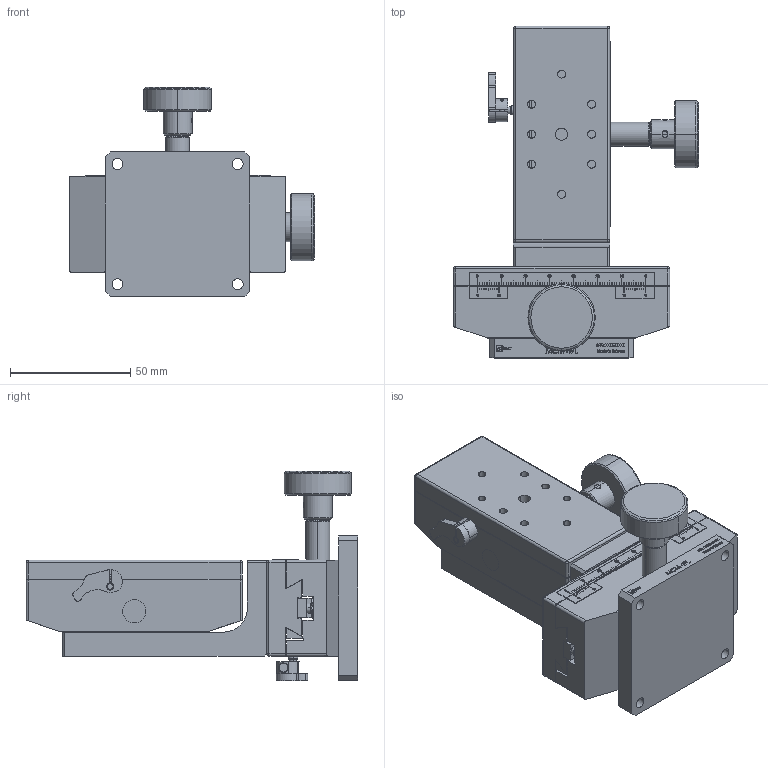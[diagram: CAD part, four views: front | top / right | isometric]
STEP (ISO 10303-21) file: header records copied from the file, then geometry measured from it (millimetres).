
FILE_DESCRIPTION (( 'STEP AP203' ), '1' );
FILE_NAME ('MCM-49WL-(«¬¿ý).STEP', '2013-10-05T02:49:30', ( '' ), ( '' ), 'SwSTEP 2.0', 'SolidWorks 2013', '' );
FILE_SCHEMA (( 'CONFIG_CONTROL_DESIGN' ));
Length unit declared in the file: millimetre
Products named in the file (5): Group4^MCM-49WL-(型錄); Group1^MCM-49WL-(型錄); Group2^MCM-49WL-(型錄); Group3^MCM-49WL-(型錄); MCM-49WL-(型錄)
Assembly tree (4 placements, depth 2):
  MCM-49WL-(型錄)
    Group4^MCM-49WL-(型錄)
    Group1^MCM-49WL-(型錄)
    Group2^MCM-49WL-(型錄)
    Group3^MCM-49WL-(型錄)
Bounding box: 102 x 138 x 87.3 mm (x, y, z)
Volume: 293158.6 mm3; surface area: 77884.6 mm2
Topology: 4 solids, 4 shells, 2367 faces, 6446 edges, 4216 vertices
Faces by surface type: plane 1591, bspline 429, cylinder 206, cone 107, torus 18, sphere 16
Entity records: 101921 total; most frequent: CARTESIAN_POINT 44434, ORIENTED_EDGE 12858, DIRECTION 9989, EDGE_CURVE 6429, VECTOR 4743, LINE 4743, VERTEX_POINT 4215, AXIS2_PLACEMENT_3D 2623
